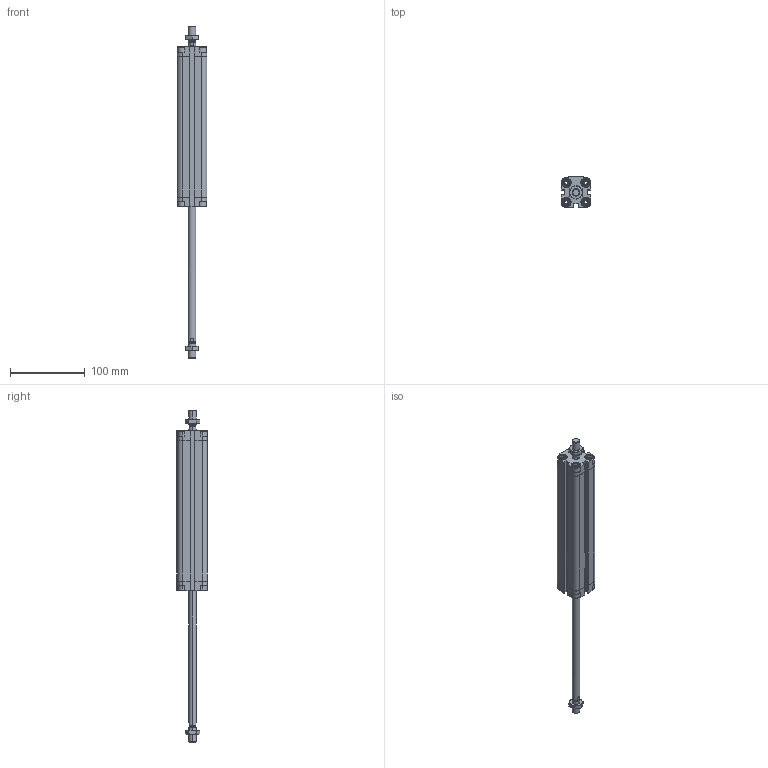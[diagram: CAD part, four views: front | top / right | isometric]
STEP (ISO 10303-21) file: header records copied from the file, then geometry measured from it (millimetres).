
FILE_DESCRIPTION (( 'STEP AP203' ), '1' );
FILE_NAME ('CDVU25-175M-P.STEP', '2020-07-21T15:13:36', ( '' ), ( '' ), 'SwSTEP 2.0', 'SolidWorks 2019', '' );
FILE_SCHEMA (( 'CONFIG_CONTROL_DESIGN' ));
Length unit declared in the file: millimetre
Products named in the file (1): CDVU25-175M-P
Bounding box: 40 x 41.5 x 444.5 mm (x, y, z)
Volume: 225715.3 mm3; surface area: 98752.5 mm2
Topology: 4 solids, 4 shells, 632 faces, 1650 edges, 1062 vertices
Faces by surface type: plane 372, cylinder 180, cone 64, torus 16
Entity records: 20069 total; most frequent: CARTESIAN_POINT 4485, ORIENTED_EDGE 3292, DIRECTION 3152, EDGE_CURVE 1646, AXIS2_PLACEMENT_3D 1089, VERTEX_POINT 1062, VECTOR 974, LINE 974
